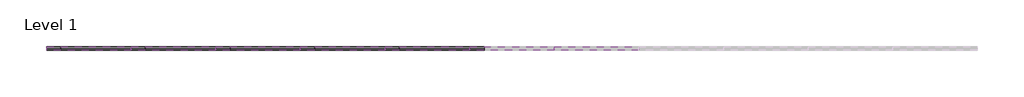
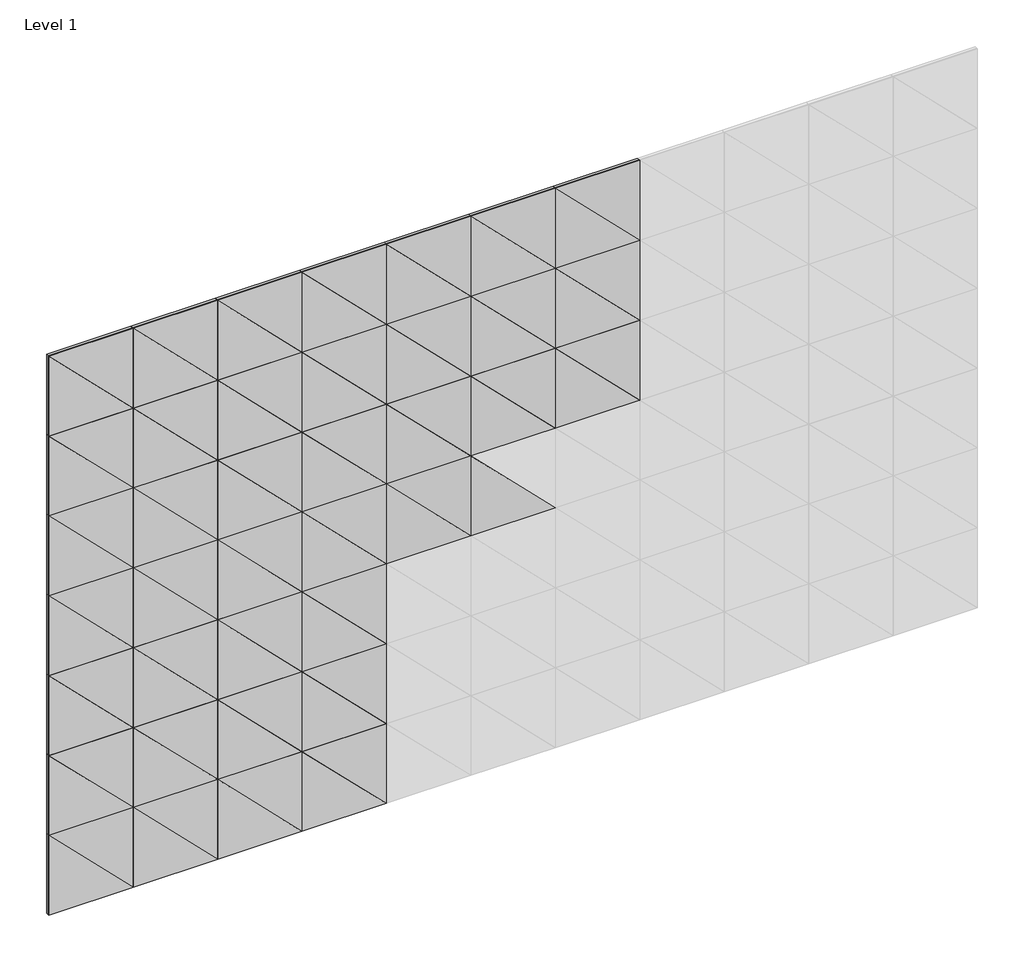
# One storey, part 1 of 2: 77 proxies.
"""IFC4 building model written with IfcOpenShell, lengths in millimetres."""

from ifc_helpers import new_model, si_unit, origin, place, context, project, spatial, transform, mapped, element, save
from components import triangle_90_block_a3482206

model = new_model("IFC4")

# Units and contexts
model_context = context("Model", 3, world=origin())
ifc_project = project(units=[si_unit("LENGTHUNIT", "METRE", prefix="MILLI")], contexts=[model_context])

# Site, building, storey
site = spatial("IfcSite", under=ifc_project)
building = spatial("IfcBuilding", under=site)
storey = spatial("IfcBuildingStorey", under=building, Name="Level 1", Elevation=0.0)

# Proxies
placement = place(None, origin())
triangle_90_block_shape = triangle_90_block_a3482206(model_context)
element("IfcBuildingElementProxy", 1, Name="FilzFelt_Triangle_90_Block : Triangle 90 Block", ObjectType="FilzFelt_Triangle_90_Block : Triangle 90 Block", at=placement, inside=storey, context=model_context, shape_type="MappedRepresentation", body=[
    mapped(triangle_90_block_shape, transform((38028.2097905, -10378.7647205, 2014.1), x_axis=(1.0, 0.0, 0.0), y_axis=(0.0, 0.0, 1.0), z_axis=(0.0, -1.0, 0.0))),
])
element("IfcBuildingElementProxy", 2, Name="FilzFelt_Triangle_90_Block : Triangle 90 Block", ObjectType="FilzFelt_Triangle_90_Block : Triangle 90 Block", at=placement, inside=storey, context=model_context, shape_type="MappedRepresentation", body=[
    mapped(triangle_90_block_shape, transform((38333.2097905, -10378.7647205, 2014.1), x_axis=(1.0, 0.0, 0.0), y_axis=(0.0, 0.0, 1.0), z_axis=(0.0, -1.0, 0.0))),
])
element("IfcBuildingElementProxy", 3, Name="FilzFelt_Triangle_90_Block : Triangle 90 Block", ObjectType="FilzFelt_Triangle_90_Block : Triangle 90 Block", at=placement, inside=storey, context=model_context, shape_type="MappedRepresentation", body=[
    mapped(triangle_90_block_shape, transform((38638.2097905, -10378.7647205, 2014.1), x_axis=(1.0, 0.0, 0.0), y_axis=(0.0, 0.0, 1.0), z_axis=(0.0, -1.0, 0.0))),
])
element("IfcBuildingElementProxy", 4, Name="FilzFelt_Triangle_90_Block : Triangle 90 Block", ObjectType="FilzFelt_Triangle_90_Block : Triangle 90 Block", at=placement, inside=storey, context=model_context, shape_type="MappedRepresentation", body=[
    mapped(triangle_90_block_shape, transform((38943.2097905, -10378.7647205, 2014.1), x_axis=(1.0, 0.0, 0.0), y_axis=(0.0, 0.0, 1.0), z_axis=(0.0, -1.0, 0.0))),
])
element("IfcBuildingElementProxy", 5, Name="FilzFelt_Triangle_90_Block : Triangle 90 Block", ObjectType="FilzFelt_Triangle_90_Block : Triangle 90 Block", at=placement, inside=storey, context=model_context, shape_type="MappedRepresentation", body=[
    mapped(triangle_90_block_shape, transform((39248.2097905, -10378.7647205, 2014.1), x_axis=(1.0, 0.0, 0.0), y_axis=(0.0, 0.0, 1.0), z_axis=(0.0, -1.0, 0.0))),
])
element("IfcBuildingElementProxy", 6, Name="FilzFelt_Triangle_90_Block : Triangle 90 Block", ObjectType="FilzFelt_Triangle_90_Block : Triangle 90 Block", at=placement, inside=storey, context=model_context, shape_type="MappedRepresentation", body=[
    mapped(triangle_90_block_shape, transform((39553.2097905, -10378.7647205, 2014.1), x_axis=(1.0, 0.0, 0.0), y_axis=(0.0, 0.0, 1.0), z_axis=(0.0, -1.0, 0.0))),
])
element("IfcBuildingElementProxy", 7, Name="FilzFelt_Triangle_90_Block : Triangle 90 Block", ObjectType="FilzFelt_Triangle_90_Block : Triangle 90 Block", at=placement, inside=storey, context=model_context, shape_type="MappedRepresentation", body=[
    mapped(triangle_90_block_shape, transform((39858.2097905, -10378.7647205, 2014.1), x_axis=(1.0, 0.0, 0.0), y_axis=(0.0, 0.0, 1.0), z_axis=(0.0, -1.0, 0.0))),
])
element("IfcBuildingElementProxy", 8, Name="FilzFelt_Triangle_90_Block : Triangle 90 Block", ObjectType="FilzFelt_Triangle_90_Block : Triangle 90 Block", at=placement, inside=storey, context=model_context, shape_type="MappedRepresentation", body=[
    mapped(triangle_90_block_shape, transform((38028.2097905, -10378.7647205, 1709.1), x_axis=(1.0, 0.0, 0.0), y_axis=(0.0, 0.0, 1.0), z_axis=(0.0, -1.0, 0.0))),
])
element("IfcBuildingElementProxy", 9, Name="FilzFelt_Triangle_90_Block : Triangle 90 Block", ObjectType="FilzFelt_Triangle_90_Block : Triangle 90 Block", at=placement, inside=storey, context=model_context, shape_type="MappedRepresentation", body=[
    mapped(triangle_90_block_shape, transform((38333.2097905, -10378.7647205, 1709.1), x_axis=(1.0, 0.0, 0.0), y_axis=(0.0, 0.0, 1.0), z_axis=(0.0, -1.0, 0.0))),
])
element("IfcBuildingElementProxy", 10, Name="FilzFelt_Triangle_90_Block : Triangle 90 Block", ObjectType="FilzFelt_Triangle_90_Block : Triangle 90 Block", at=placement, inside=storey, context=model_context, shape_type="MappedRepresentation", body=[
    mapped(triangle_90_block_shape, transform((38638.2097905, -10378.7647205, 1709.1), x_axis=(1.0, 0.0, 0.0), y_axis=(0.0, 0.0, 1.0), z_axis=(0.0, -1.0, 0.0))),
])
element("IfcBuildingElementProxy", 11, Name="FilzFelt_Triangle_90_Block : Triangle 90 Block", ObjectType="FilzFelt_Triangle_90_Block : Triangle 90 Block", at=placement, inside=storey, context=model_context, shape_type="MappedRepresentation", body=[
    mapped(triangle_90_block_shape, transform((38943.2097905, -10378.7647205, 1709.1), x_axis=(1.0, 0.0, 0.0), y_axis=(0.0, 0.0, 1.0), z_axis=(0.0, -1.0, 0.0))),
])
element("IfcBuildingElementProxy", 12, Name="FilzFelt_Triangle_90_Block : Triangle 90 Block", ObjectType="FilzFelt_Triangle_90_Block : Triangle 90 Block", at=placement, inside=storey, context=model_context, shape_type="MappedRepresentation", body=[
    mapped(triangle_90_block_shape, transform((39248.2097905, -10378.7647205, 1709.1), x_axis=(1.0, 0.0, 0.0), y_axis=(0.0, 0.0, 1.0), z_axis=(0.0, -1.0, 0.0))),
])
element("IfcBuildingElementProxy", 13, Name="FilzFelt_Triangle_90_Block : Triangle 90 Block", ObjectType="FilzFelt_Triangle_90_Block : Triangle 90 Block", at=placement, inside=storey, context=model_context, shape_type="MappedRepresentation", body=[
    mapped(triangle_90_block_shape, transform((39553.2097905, -10378.7647205, 1709.1), x_axis=(1.0, 0.0, 0.0), y_axis=(0.0, 0.0, 1.0), z_axis=(0.0, -1.0, 0.0))),
])
element("IfcBuildingElementProxy", 14, Name="FilzFelt_Triangle_90_Block : Triangle 90 Block", ObjectType="FilzFelt_Triangle_90_Block : Triangle 90 Block", at=placement, inside=storey, context=model_context, shape_type="MappedRepresentation", body=[
    mapped(triangle_90_block_shape, transform((39858.2097905, -10378.7647205, 1709.1), x_axis=(1.0, 0.0, 0.0), y_axis=(0.0, 0.0, 1.0), z_axis=(0.0, -1.0, 0.0))),
])
element("IfcBuildingElementProxy", 15, Name="FilzFelt_Triangle_90_Block : Triangle 90 Block", ObjectType="FilzFelt_Triangle_90_Block : Triangle 90 Block", at=placement, inside=storey, context=model_context, shape_type="MappedRepresentation", body=[
    mapped(triangle_90_block_shape, transform((38028.2097905, -10378.7647205, 1404.1), x_axis=(1.0, 0.0, 0.0), y_axis=(0.0, 0.0, 1.0), z_axis=(0.0, -1.0, 0.0))),
])
element("IfcBuildingElementProxy", 16, Name="FilzFelt_Triangle_90_Block : Triangle 90 Block", ObjectType="FilzFelt_Triangle_90_Block : Triangle 90 Block", at=placement, inside=storey, context=model_context, shape_type="MappedRepresentation", body=[
    mapped(triangle_90_block_shape, transform((38333.2097905, -10378.7647205, 1404.1), x_axis=(1.0, 0.0, 0.0), y_axis=(0.0, 0.0, 1.0), z_axis=(0.0, -1.0, 0.0))),
])
element("IfcBuildingElementProxy", 17, Name="FilzFelt_Triangle_90_Block : Triangle 90 Block", ObjectType="FilzFelt_Triangle_90_Block : Triangle 90 Block", at=placement, inside=storey, context=model_context, shape_type="MappedRepresentation", body=[
    mapped(triangle_90_block_shape, transform((38638.2097905, -10378.7647205, 1404.1), x_axis=(1.0, 0.0, 0.0), y_axis=(0.0, 0.0, 1.0), z_axis=(0.0, -1.0, 0.0))),
])
element("IfcBuildingElementProxy", 18, Name="FilzFelt_Triangle_90_Block : Triangle 90 Block", ObjectType="FilzFelt_Triangle_90_Block : Triangle 90 Block", at=placement, inside=storey, context=model_context, shape_type="MappedRepresentation", body=[
    mapped(triangle_90_block_shape, transform((38943.2097905, -10378.7647205, 1404.1), x_axis=(1.0, 0.0, 0.0), y_axis=(0.0, 0.0, 1.0), z_axis=(0.0, -1.0, 0.0))),
])
element("IfcBuildingElementProxy", 19, Name="FilzFelt_Triangle_90_Block : Triangle 90 Block", ObjectType="FilzFelt_Triangle_90_Block : Triangle 90 Block", at=placement, inside=storey, context=model_context, shape_type="MappedRepresentation", body=[
    mapped(triangle_90_block_shape, transform((39248.2097905, -10378.7647205, 1404.1), x_axis=(1.0, 0.0, 0.0), y_axis=(0.0, 0.0, 1.0), z_axis=(0.0, -1.0, 0.0))),
])
element("IfcBuildingElementProxy", 20, Name="FilzFelt_Triangle_90_Block : Triangle 90 Block", ObjectType="FilzFelt_Triangle_90_Block : Triangle 90 Block", at=placement, inside=storey, context=model_context, shape_type="MappedRepresentation", body=[
    mapped(triangle_90_block_shape, transform((39553.2097905, -10378.7647205, 1404.1), x_axis=(1.0, 0.0, 0.0), y_axis=(0.0, 0.0, 1.0), z_axis=(0.0, -1.0, 0.0))),
])
element("IfcBuildingElementProxy", 21, Name="FilzFelt_Triangle_90_Block : Triangle 90 Block", ObjectType="FilzFelt_Triangle_90_Block : Triangle 90 Block", at=placement, inside=storey, context=model_context, shape_type="MappedRepresentation", body=[
    mapped(triangle_90_block_shape, transform((39858.2097905, -10378.7647205, 1404.1), x_axis=(1.0, 0.0, 0.0), y_axis=(0.0, 0.0, 1.0), z_axis=(0.0, -1.0, 0.0))),
])
element("IfcBuildingElementProxy", 22, Name="FilzFelt_Triangle_90_Block : Triangle 90 Block", ObjectType="FilzFelt_Triangle_90_Block : Triangle 90 Block", at=placement, inside=storey, context=model_context, shape_type="MappedRepresentation", body=[
    mapped(triangle_90_block_shape, transform((38028.2097905, -10378.7647205, 1099.1), x_axis=(1.0, 0.0, 0.0), y_axis=(0.0, 0.0, 1.0), z_axis=(0.0, -1.0, 0.0))),
])
element("IfcBuildingElementProxy", 23, Name="FilzFelt_Triangle_90_Block : Triangle 90 Block", ObjectType="FilzFelt_Triangle_90_Block : Triangle 90 Block", at=placement, inside=storey, context=model_context, shape_type="MappedRepresentation", body=[
    mapped(triangle_90_block_shape, transform((38333.2097905, -10378.7647205, 1099.1), x_axis=(1.0, 0.0, 0.0), y_axis=(0.0, 0.0, 1.0), z_axis=(0.0, -1.0, 0.0))),
])
element("IfcBuildingElementProxy", 24, Name="FilzFelt_Triangle_90_Block : Triangle 90 Block", ObjectType="FilzFelt_Triangle_90_Block : Triangle 90 Block", at=placement, inside=storey, context=model_context, shape_type="MappedRepresentation", body=[
    mapped(triangle_90_block_shape, transform((38638.2097905, -10378.7647205, 1099.1), x_axis=(1.0, 0.0, 0.0), y_axis=(0.0, 0.0, 1.0), z_axis=(0.0, -1.0, 0.0))),
])
element("IfcBuildingElementProxy", 25, Name="FilzFelt_Triangle_90_Block : Triangle 90 Block", ObjectType="FilzFelt_Triangle_90_Block : Triangle 90 Block", at=placement, inside=storey, context=model_context, shape_type="MappedRepresentation", body=[
    mapped(triangle_90_block_shape, transform((38943.2097905, -10378.7647205, 1099.1), x_axis=(1.0, 0.0, 0.0), y_axis=(0.0, 0.0, 1.0), z_axis=(0.0, -1.0, 0.0))),
])
element("IfcBuildingElementProxy", 26, Name="FilzFelt_Triangle_90_Block : Triangle 90 Block", ObjectType="FilzFelt_Triangle_90_Block : Triangle 90 Block", at=placement, inside=storey, context=model_context, shape_type="MappedRepresentation", body=[
    mapped(triangle_90_block_shape, transform((39248.2097905, -10378.7647205, 1099.1), x_axis=(1.0, 0.0, 0.0), y_axis=(0.0, 0.0, 1.0), z_axis=(0.0, -1.0, 0.0))),
])
element("IfcBuildingElementProxy", 27, Name="FilzFelt_Triangle_90_Block : Triangle 90 Block", ObjectType="FilzFelt_Triangle_90_Block : Triangle 90 Block", at=placement, inside=storey, context=model_context, shape_type="MappedRepresentation", body=[
    mapped(triangle_90_block_shape, transform((39553.2097905, -10378.7647205, 1099.1), x_axis=(1.0, 0.0, 0.0), y_axis=(0.0, 0.0, 1.0), z_axis=(0.0, -1.0, 0.0))),
])
element("IfcBuildingElementProxy", 28, Name="FilzFelt_Triangle_90_Block : Triangle 90 Block", ObjectType="FilzFelt_Triangle_90_Block : Triangle 90 Block", at=placement, inside=storey, context=model_context, shape_type="MappedRepresentation", body=[
    mapped(triangle_90_block_shape, transform((38028.2097905, -10378.7647205, 794.1), x_axis=(1.0, 0.0, 0.0), y_axis=(0.0, 0.0, 1.0), z_axis=(0.0, -1.0, 0.0))),
])
element("IfcBuildingElementProxy", 29, Name="FilzFelt_Triangle_90_Block : Triangle 90 Block", ObjectType="FilzFelt_Triangle_90_Block : Triangle 90 Block", at=placement, inside=storey, context=model_context, shape_type="MappedRepresentation", body=[
    mapped(triangle_90_block_shape, transform((38333.2097905, -10378.7647205, 794.1), x_axis=(1.0, 0.0, 0.0), y_axis=(0.0, 0.0, 1.0), z_axis=(0.0, -1.0, 0.0))),
])
element("IfcBuildingElementProxy", 30, Name="FilzFelt_Triangle_90_Block : Triangle 90 Block", ObjectType="FilzFelt_Triangle_90_Block : Triangle 90 Block", at=placement, inside=storey, context=model_context, shape_type="MappedRepresentation", body=[
    mapped(triangle_90_block_shape, transform((38638.2097905, -10378.7647205, 794.1), x_axis=(1.0, 0.0, 0.0), y_axis=(0.0, 0.0, 1.0), z_axis=(0.0, -1.0, 0.0))),
])
element("IfcBuildingElementProxy", 31, Name="FilzFelt_Triangle_90_Block : Triangle 90 Block", ObjectType="FilzFelt_Triangle_90_Block : Triangle 90 Block", at=placement, inside=storey, context=model_context, shape_type="MappedRepresentation", body=[
    mapped(triangle_90_block_shape, transform((38943.2097905, -10378.7647205, 794.1), x_axis=(1.0, 0.0, 0.0), y_axis=(0.0, 0.0, 1.0), z_axis=(0.0, -1.0, 0.0))),
])
element("IfcBuildingElementProxy", 32, Name="FilzFelt_Triangle_90_Block : Triangle 90 Block", ObjectType="FilzFelt_Triangle_90_Block : Triangle 90 Block", at=placement, inside=storey, context=model_context, shape_type="MappedRepresentation", body=[
    mapped(triangle_90_block_shape, transform((38028.2097905, -10378.7647205, 489.1), x_axis=(1.0, 0.0, 0.0), y_axis=(0.0, 0.0, 1.0), z_axis=(0.0, -1.0, 0.0))),
])
element("IfcBuildingElementProxy", 33, Name="FilzFelt_Triangle_90_Block : Triangle 90 Block", ObjectType="FilzFelt_Triangle_90_Block : Triangle 90 Block", at=placement, inside=storey, context=model_context, shape_type="MappedRepresentation", body=[
    mapped(triangle_90_block_shape, transform((38333.2097905, -10378.7647205, 489.1), x_axis=(1.0, 0.0, 0.0), y_axis=(0.0, 0.0, 1.0), z_axis=(0.0, -1.0, 0.0))),
])
element("IfcBuildingElementProxy", 34, Name="FilzFelt_Triangle_90_Block : Triangle 90 Block", ObjectType="FilzFelt_Triangle_90_Block : Triangle 90 Block", at=placement, inside=storey, context=model_context, shape_type="MappedRepresentation", body=[
    mapped(triangle_90_block_shape, transform((38638.2097905, -10378.7647205, 489.1), x_axis=(1.0, 0.0, 0.0), y_axis=(0.0, 0.0, 1.0), z_axis=(0.0, -1.0, 0.0))),
])
element("IfcBuildingElementProxy", 35, Name="FilzFelt_Triangle_90_Block : Triangle 90 Block", ObjectType="FilzFelt_Triangle_90_Block : Triangle 90 Block", at=placement, inside=storey, context=model_context, shape_type="MappedRepresentation", body=[
    mapped(triangle_90_block_shape, transform((38943.2097905, -10378.7647205, 489.1), x_axis=(1.0, 0.0, 0.0), y_axis=(0.0, 0.0, 1.0), z_axis=(0.0, -1.0, 0.0))),
])
element("IfcBuildingElementProxy", 36, Name="FilzFelt_Triangle_90_Block : Triangle 90 Block", ObjectType="FilzFelt_Triangle_90_Block : Triangle 90 Block", at=placement, inside=storey, context=model_context, shape_type="MappedRepresentation", body=[
    mapped(triangle_90_block_shape, transform((38028.2097905, -10378.7647205, 184.1), x_axis=(1.0, 0.0, 0.0), y_axis=(0.0, 0.0, 1.0), z_axis=(0.0, -1.0, 0.0))),
])
element("IfcBuildingElementProxy", 37, Name="FilzFelt_Triangle_90_Block : Triangle 90 Block", ObjectType="FilzFelt_Triangle_90_Block : Triangle 90 Block", at=placement, inside=storey, context=model_context, shape_type="MappedRepresentation", body=[
    mapped(triangle_90_block_shape, transform((38333.2097905, -10378.7647205, 184.1), x_axis=(1.0, 0.0, 0.0), y_axis=(0.0, 0.0, 1.0), z_axis=(0.0, -1.0, 0.0))),
])
element("IfcBuildingElementProxy", 38, Name="FilzFelt_Triangle_90_Block : Triangle 90 Block", ObjectType="FilzFelt_Triangle_90_Block : Triangle 90 Block", at=placement, inside=storey, context=model_context, shape_type="MappedRepresentation", body=[
    mapped(triangle_90_block_shape, transform((38638.2097905, -10378.7647205, 184.1), x_axis=(1.0, 0.0, 0.0), y_axis=(0.0, 0.0, 1.0), z_axis=(0.0, -1.0, 0.0))),
])
element("IfcBuildingElementProxy", 39, Name="FilzFelt_Triangle_90_Block : Triangle 90 Block", ObjectType="FilzFelt_Triangle_90_Block : Triangle 90 Block", at=placement, inside=storey, context=model_context, shape_type="MappedRepresentation", body=[
    mapped(triangle_90_block_shape, transform((38943.2097905, -10378.7647205, 184.1), x_axis=(1.0, 0.0, 0.0), y_axis=(0.0, 0.0, 1.0), z_axis=(0.0, -1.0, 0.0))),
])
element("IfcBuildingElementProxy", 40, Name="FilzFelt_Triangle_90_Block : Triangle 90 Block", ObjectType="FilzFelt_Triangle_90_Block : Triangle 90 Block", at=placement, inside=storey, context=model_context, shape_type="MappedRepresentation", body=[
    mapped(triangle_90_block_shape, transform((38028.2097905, -10378.7647205, 2014.1), x_axis=(-1.0, 0.0, 0.0), y_axis=(0.0, 0.0, -1.0), z_axis=(0.0, -1.0, 0.0))),
])
element("IfcBuildingElementProxy", 41, Name="FilzFelt_Triangle_90_Block : Triangle 90 Block", ObjectType="FilzFelt_Triangle_90_Block : Triangle 90 Block", at=placement, inside=storey, context=model_context, shape_type="MappedRepresentation", body=[
    mapped(triangle_90_block_shape, transform((38333.2097905, -10378.7647205, 2014.1), x_axis=(-1.0, 0.0, 0.0), y_axis=(0.0, 0.0, -1.0), z_axis=(0.0, -1.0, 0.0))),
])
element("IfcBuildingElementProxy", 42, Name="FilzFelt_Triangle_90_Block : Triangle 90 Block", ObjectType="FilzFelt_Triangle_90_Block : Triangle 90 Block", at=placement, inside=storey, context=model_context, shape_type="MappedRepresentation", body=[
    mapped(triangle_90_block_shape, transform((38638.2097905, -10378.7647205, 2014.1), x_axis=(-1.0, 0.0, 0.0), y_axis=(0.0, 0.0, -1.0), z_axis=(0.0, -1.0, 0.0))),
])
element("IfcBuildingElementProxy", 43, Name="FilzFelt_Triangle_90_Block : Triangle 90 Block", ObjectType="FilzFelt_Triangle_90_Block : Triangle 90 Block", at=placement, inside=storey, context=model_context, shape_type="MappedRepresentation", body=[
    mapped(triangle_90_block_shape, transform((38943.2097905, -10378.7647205, 2014.1), x_axis=(-1.0, 0.0, 0.0), y_axis=(0.0, 0.0, -1.0), z_axis=(0.0, -1.0, 0.0))),
])
element("IfcBuildingElementProxy", 44, Name="FilzFelt_Triangle_90_Block : Triangle 90 Block", ObjectType="FilzFelt_Triangle_90_Block : Triangle 90 Block", at=placement, inside=storey, context=model_context, shape_type="MappedRepresentation", body=[
    mapped(triangle_90_block_shape, transform((39248.2097905, -10378.7647205, 2014.1), x_axis=(-1.0, 0.0, 0.0), y_axis=(0.0, 0.0, -1.0), z_axis=(0.0, -1.0, 0.0))),
])
element("IfcBuildingElementProxy", 45, Name="FilzFelt_Triangle_90_Block : Triangle 90 Block", ObjectType="FilzFelt_Triangle_90_Block : Triangle 90 Block", at=placement, inside=storey, context=model_context, shape_type="MappedRepresentation", body=[
    mapped(triangle_90_block_shape, transform((39553.2097905, -10378.7647205, 2014.1), x_axis=(-1.0, 0.0, 0.0), y_axis=(0.0, 0.0, -1.0), z_axis=(0.0, -1.0, 0.0))),
])
element("IfcBuildingElementProxy", 46, Name="FilzFelt_Triangle_90_Block : Triangle 90 Block", ObjectType="FilzFelt_Triangle_90_Block : Triangle 90 Block", at=placement, inside=storey, context=model_context, shape_type="MappedRepresentation", body=[
    mapped(triangle_90_block_shape, transform((39858.2097905, -10378.7647205, 2014.1), x_axis=(-1.0, 0.0, 0.0), y_axis=(0.0, 0.0, -1.0), z_axis=(0.0, -1.0, 0.0))),
])
element("IfcBuildingElementProxy", 47, Name="FilzFelt_Triangle_90_Block : Triangle 90 Block", ObjectType="FilzFelt_Triangle_90_Block : Triangle 90 Block", at=placement, inside=storey, context=model_context, shape_type="MappedRepresentation", body=[
    mapped(triangle_90_block_shape, transform((38028.2097905, -10378.7647205, 1404.1), x_axis=(-1.0, 0.0, 0.0), y_axis=(0.0, 0.0, -1.0), z_axis=(0.0, -1.0, 0.0))),
])
element("IfcBuildingElementProxy", 48, Name="FilzFelt_Triangle_90_Block : Triangle 90 Block", ObjectType="FilzFelt_Triangle_90_Block : Triangle 90 Block", at=placement, inside=storey, context=model_context, shape_type="MappedRepresentation", body=[
    mapped(triangle_90_block_shape, transform((38333.2097905, -10378.7647205, 1404.1), x_axis=(-1.0, 0.0, 0.0), y_axis=(0.0, 0.0, -1.0), z_axis=(0.0, -1.0, 0.0))),
])
element("IfcBuildingElementProxy", 49, Name="FilzFelt_Triangle_90_Block : Triangle 90 Block", ObjectType="FilzFelt_Triangle_90_Block : Triangle 90 Block", at=placement, inside=storey, context=model_context, shape_type="MappedRepresentation", body=[
    mapped(triangle_90_block_shape, transform((38638.2097905, -10378.7647205, 1404.1), x_axis=(-1.0, 0.0, 0.0), y_axis=(0.0, 0.0, -1.0), z_axis=(0.0, -1.0, 0.0))),
])
element("IfcBuildingElementProxy", 50, Name="FilzFelt_Triangle_90_Block : Triangle 90 Block", ObjectType="FilzFelt_Triangle_90_Block : Triangle 90 Block", at=placement, inside=storey, context=model_context, shape_type="MappedRepresentation", body=[
    mapped(triangle_90_block_shape, transform((38943.2097905, -10378.7647205, 1404.1), x_axis=(-1.0, 0.0, 0.0), y_axis=(0.0, 0.0, -1.0), z_axis=(0.0, -1.0, 0.0))),
])
element("IfcBuildingElementProxy", 51, Name="FilzFelt_Triangle_90_Block : Triangle 90 Block", ObjectType="FilzFelt_Triangle_90_Block : Triangle 90 Block", at=placement, inside=storey, context=model_context, shape_type="MappedRepresentation", body=[
    mapped(triangle_90_block_shape, transform((39248.2097905, -10378.7647205, 1404.1), x_axis=(-1.0, 0.0, 0.0), y_axis=(0.0, 0.0, -1.0), z_axis=(0.0, -1.0, 0.0))),
])
element("IfcBuildingElementProxy", 52, Name="FilzFelt_Triangle_90_Block : Triangle 90 Block", ObjectType="FilzFelt_Triangle_90_Block : Triangle 90 Block", at=placement, inside=storey, context=model_context, shape_type="MappedRepresentation", body=[
    mapped(triangle_90_block_shape, transform((39553.2097905, -10378.7647205, 1404.1), x_axis=(-1.0, 0.0, 0.0), y_axis=(0.0, 0.0, -1.0), z_axis=(0.0, -1.0, 0.0))),
])
element("IfcBuildingElementProxy", 53, Name="FilzFelt_Triangle_90_Block : Triangle 90 Block", ObjectType="FilzFelt_Triangle_90_Block : Triangle 90 Block", at=placement, inside=storey, context=model_context, shape_type="MappedRepresentation", body=[
    mapped(triangle_90_block_shape, transform((39858.2097905, -10378.7647205, 1404.1), x_axis=(-1.0, 0.0, 0.0), y_axis=(0.0, 0.0, -1.0), z_axis=(0.0, -1.0, 0.0))),
])
element("IfcBuildingElementProxy", 54, Name="FilzFelt_Triangle_90_Block : Triangle 90 Block", ObjectType="FilzFelt_Triangle_90_Block : Triangle 90 Block", at=placement, inside=storey, context=model_context, shape_type="MappedRepresentation", body=[
    mapped(triangle_90_block_shape, transform((38028.2097905, -10378.7647205, 794.1), x_axis=(-1.0, 0.0, 0.0), y_axis=(0.0, 0.0, -1.0), z_axis=(0.0, -1.0, 0.0))),
])
element("IfcBuildingElementProxy", 55, Name="FilzFelt_Triangle_90_Block : Triangle 90 Block", ObjectType="FilzFelt_Triangle_90_Block : Triangle 90 Block", at=placement, inside=storey, context=model_context, shape_type="MappedRepresentation", body=[
    mapped(triangle_90_block_shape, transform((38333.2097905, -10378.7647205, 794.1), x_axis=(-1.0, 0.0, 0.0), y_axis=(0.0, 0.0, -1.0), z_axis=(0.0, -1.0, 0.0))),
])
element("IfcBuildingElementProxy", 56, Name="FilzFelt_Triangle_90_Block : Triangle 90 Block", ObjectType="FilzFelt_Triangle_90_Block : Triangle 90 Block", at=placement, inside=storey, context=model_context, shape_type="MappedRepresentation", body=[
    mapped(triangle_90_block_shape, transform((38638.2097905, -10378.7647205, 794.1), x_axis=(-1.0, 0.0, 0.0), y_axis=(0.0, 0.0, -1.0), z_axis=(0.0, -1.0, 0.0))),
])
element("IfcBuildingElementProxy", 57, Name="FilzFelt_Triangle_90_Block : Triangle 90 Block", ObjectType="FilzFelt_Triangle_90_Block : Triangle 90 Block", at=placement, inside=storey, context=model_context, shape_type="MappedRepresentation", body=[
    mapped(triangle_90_block_shape, transform((38943.2097905, -10378.7647205, 794.1), x_axis=(-1.0, 0.0, 0.0), y_axis=(0.0, 0.0, -1.0), z_axis=(0.0, -1.0, 0.0))),
])
element("IfcBuildingElementProxy", 58, Name="FilzFelt_Triangle_90_Block : Triangle 90 Block", ObjectType="FilzFelt_Triangle_90_Block : Triangle 90 Block", at=placement, inside=storey, context=model_context, shape_type="MappedRepresentation", body=[
    mapped(triangle_90_block_shape, transform((38028.2097905, -10378.7647205, 184.1), x_axis=(-1.0, 0.0, 0.0), y_axis=(0.0, 0.0, -1.0), z_axis=(0.0, -1.0, 0.0))),
])
element("IfcBuildingElementProxy", 59, Name="FilzFelt_Triangle_90_Block : Triangle 90 Block", ObjectType="FilzFelt_Triangle_90_Block : Triangle 90 Block", at=placement, inside=storey, context=model_context, shape_type="MappedRepresentation", body=[
    mapped(triangle_90_block_shape, transform((38333.2097905, -10378.7647205, 184.1), x_axis=(-1.0, 0.0, 0.0), y_axis=(0.0, 0.0, -1.0), z_axis=(0.0, -1.0, 0.0))),
])
element("IfcBuildingElementProxy", 60, Name="FilzFelt_Triangle_90_Block : Triangle 90 Block", ObjectType="FilzFelt_Triangle_90_Block : Triangle 90 Block", at=placement, inside=storey, context=model_context, shape_type="MappedRepresentation", body=[
    mapped(triangle_90_block_shape, transform((38638.2097905, -10378.7647205, 184.1), x_axis=(-1.0, 0.0, 0.0), y_axis=(0.0, 0.0, -1.0), z_axis=(0.0, -1.0, 0.0))),
])
element("IfcBuildingElementProxy", 61, Name="FilzFelt_Triangle_90_Block : Triangle 90 Block", ObjectType="FilzFelt_Triangle_90_Block : Triangle 90 Block", at=placement, inside=storey, context=model_context, shape_type="MappedRepresentation", body=[
    mapped(triangle_90_block_shape, transform((38943.2097905, -10378.7647205, 184.1), x_axis=(-1.0, 0.0, 0.0), y_axis=(0.0, 0.0, -1.0), z_axis=(0.0, -1.0, 0.0))),
])
element("IfcBuildingElementProxy", 62, Name="FilzFelt_Triangle_90_Block : Triangle 90 Block", ObjectType="FilzFelt_Triangle_90_Block : Triangle 90 Block", at=placement, inside=storey, context=model_context, shape_type="MappedRepresentation", body=[
    mapped(triangle_90_block_shape, transform((38028.2097905, -10378.7647205, 1709.1), x_axis=(-1.0, 0.0, 0.0), y_axis=(0.0, 0.0, -1.0), z_axis=(0.0, -1.0, 0.0))),
])
element("IfcBuildingElementProxy", 63, Name="FilzFelt_Triangle_90_Block : Triangle 90 Block", ObjectType="FilzFelt_Triangle_90_Block : Triangle 90 Block", at=placement, inside=storey, context=model_context, shape_type="MappedRepresentation", body=[
    mapped(triangle_90_block_shape, transform((38333.2097905, -10378.7647205, 1709.1), x_axis=(-1.0, 0.0, 0.0), y_axis=(0.0, 0.0, -1.0), z_axis=(0.0, -1.0, 0.0))),
])
element("IfcBuildingElementProxy", 64, Name="FilzFelt_Triangle_90_Block : Triangle 90 Block", ObjectType="FilzFelt_Triangle_90_Block : Triangle 90 Block", at=placement, inside=storey, context=model_context, shape_type="MappedRepresentation", body=[
    mapped(triangle_90_block_shape, transform((38638.2097905, -10378.7647205, 1709.1), x_axis=(-1.0, 0.0, 0.0), y_axis=(0.0, 0.0, -1.0), z_axis=(0.0, -1.0, 0.0))),
])
element("IfcBuildingElementProxy", 65, Name="FilzFelt_Triangle_90_Block : Triangle 90 Block", ObjectType="FilzFelt_Triangle_90_Block : Triangle 90 Block", at=placement, inside=storey, context=model_context, shape_type="MappedRepresentation", body=[
    mapped(triangle_90_block_shape, transform((38943.2097905, -10378.7647205, 1709.1), x_axis=(-1.0, 0.0, 0.0), y_axis=(0.0, 0.0, -1.0), z_axis=(0.0, -1.0, 0.0))),
])
element("IfcBuildingElementProxy", 66, Name="FilzFelt_Triangle_90_Block : Triangle 90 Block", ObjectType="FilzFelt_Triangle_90_Block : Triangle 90 Block", at=placement, inside=storey, context=model_context, shape_type="MappedRepresentation", body=[
    mapped(triangle_90_block_shape, transform((39248.2097905, -10378.7647205, 1709.1), x_axis=(-1.0, 0.0, 0.0), y_axis=(0.0, 0.0, -1.0), z_axis=(0.0, -1.0, 0.0))),
])
element("IfcBuildingElementProxy", 67, Name="FilzFelt_Triangle_90_Block : Triangle 90 Block", ObjectType="FilzFelt_Triangle_90_Block : Triangle 90 Block", at=placement, inside=storey, context=model_context, shape_type="MappedRepresentation", body=[
    mapped(triangle_90_block_shape, transform((39553.2097905, -10378.7647205, 1709.1), x_axis=(-1.0, 0.0, 0.0), y_axis=(0.0, 0.0, -1.0), z_axis=(0.0, -1.0, 0.0))),
])
element("IfcBuildingElementProxy", 68, Name="FilzFelt_Triangle_90_Block : Triangle 90 Block", ObjectType="FilzFelt_Triangle_90_Block : Triangle 90 Block", at=placement, inside=storey, context=model_context, shape_type="MappedRepresentation", body=[
    mapped(triangle_90_block_shape, transform((39858.2097905, -10378.7647205, 1709.1), x_axis=(-1.0, 0.0, 0.0), y_axis=(0.0, 0.0, -1.0), z_axis=(0.0, -1.0, 0.0))),
])
element("IfcBuildingElementProxy", 69, Name="FilzFelt_Triangle_90_Block : Triangle 90 Block", ObjectType="FilzFelt_Triangle_90_Block : Triangle 90 Block", at=placement, inside=storey, context=model_context, shape_type="MappedRepresentation", body=[
    mapped(triangle_90_block_shape, transform((38028.2097905, -10378.7647205, 1099.1), x_axis=(-1.0, 0.0, 0.0), y_axis=(0.0, 0.0, -1.0), z_axis=(0.0, -1.0, 0.0))),
])
element("IfcBuildingElementProxy", 70, Name="FilzFelt_Triangle_90_Block : Triangle 90 Block", ObjectType="FilzFelt_Triangle_90_Block : Triangle 90 Block", at=placement, inside=storey, context=model_context, shape_type="MappedRepresentation", body=[
    mapped(triangle_90_block_shape, transform((38333.2097905, -10378.7647205, 1099.1), x_axis=(-1.0, 0.0, 0.0), y_axis=(0.0, 0.0, -1.0), z_axis=(0.0, -1.0, 0.0))),
])
element("IfcBuildingElementProxy", 71, Name="FilzFelt_Triangle_90_Block : Triangle 90 Block", ObjectType="FilzFelt_Triangle_90_Block : Triangle 90 Block", at=placement, inside=storey, context=model_context, shape_type="MappedRepresentation", body=[
    mapped(triangle_90_block_shape, transform((38638.2097905, -10378.7647205, 1099.1), x_axis=(-1.0, 0.0, 0.0), y_axis=(0.0, 0.0, -1.0), z_axis=(0.0, -1.0, 0.0))),
])
element("IfcBuildingElementProxy", 72, Name="FilzFelt_Triangle_90_Block : Triangle 90 Block", ObjectType="FilzFelt_Triangle_90_Block : Triangle 90 Block", at=placement, inside=storey, context=model_context, shape_type="MappedRepresentation", body=[
    mapped(triangle_90_block_shape, transform((38943.2097905, -10378.7647205, 1099.1), x_axis=(-1.0, 0.0, 0.0), y_axis=(0.0, 0.0, -1.0), z_axis=(0.0, -1.0, 0.0))),
])
element("IfcBuildingElementProxy", 73, Name="FilzFelt_Triangle_90_Block : Triangle 90 Block", ObjectType="FilzFelt_Triangle_90_Block : Triangle 90 Block", at=placement, inside=storey, context=model_context, shape_type="MappedRepresentation", body=[
    mapped(triangle_90_block_shape, transform((39248.2097905, -10378.7647205, 1099.1), x_axis=(-1.0, 0.0, 0.0), y_axis=(0.0, 0.0, -1.0), z_axis=(0.0, -1.0, 0.0))),
])
element("IfcBuildingElementProxy", 74, Name="FilzFelt_Triangle_90_Block : Triangle 90 Block", ObjectType="FilzFelt_Triangle_90_Block : Triangle 90 Block", at=placement, inside=storey, context=model_context, shape_type="MappedRepresentation", body=[
    mapped(triangle_90_block_shape, transform((38028.2097905, -10378.7647205, 489.1), x_axis=(-1.0, 0.0, 0.0), y_axis=(0.0, 0.0, -1.0), z_axis=(0.0, -1.0, 0.0))),
])
element("IfcBuildingElementProxy", 75, Name="FilzFelt_Triangle_90_Block : Triangle 90 Block", ObjectType="FilzFelt_Triangle_90_Block : Triangle 90 Block", at=placement, inside=storey, context=model_context, shape_type="MappedRepresentation", body=[
    mapped(triangle_90_block_shape, transform((38333.2097905, -10378.7647205, 489.1), x_axis=(-1.0, 0.0, 0.0), y_axis=(0.0, 0.0, -1.0), z_axis=(0.0, -1.0, 0.0))),
])
element("IfcBuildingElementProxy", 76, Name="FilzFelt_Triangle_90_Block : Triangle 90 Block", ObjectType="FilzFelt_Triangle_90_Block : Triangle 90 Block", at=placement, inside=storey, context=model_context, shape_type="MappedRepresentation", body=[
    mapped(triangle_90_block_shape, transform((38638.2097905, -10378.7647205, 489.1), x_axis=(-1.0, 0.0, 0.0), y_axis=(0.0, 0.0, -1.0), z_axis=(0.0, -1.0, 0.0))),
])
element("IfcBuildingElementProxy", 77, Name="FilzFelt_Triangle_90_Block : Triangle 90 Block", ObjectType="FilzFelt_Triangle_90_Block : Triangle 90 Block", at=placement, inside=storey, context=model_context, shape_type="MappedRepresentation", body=[
    mapped(triangle_90_block_shape, transform((38943.2097905, -10378.7647205, 489.1), x_axis=(-1.0, 0.0, 0.0), y_axis=(0.0, 0.0, -1.0), z_axis=(0.0, -1.0, 0.0))),
])

save(model, "model.ifc")
